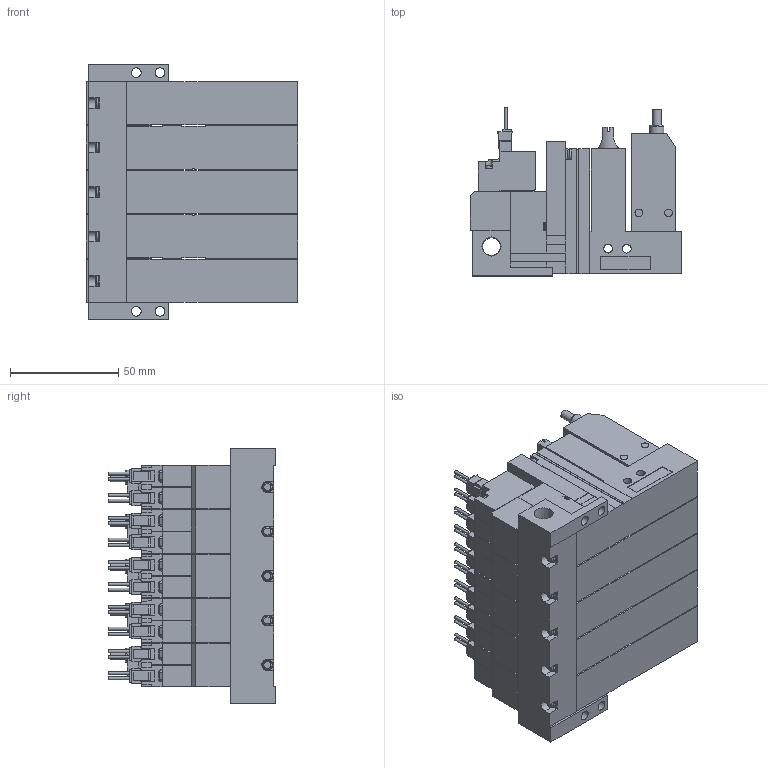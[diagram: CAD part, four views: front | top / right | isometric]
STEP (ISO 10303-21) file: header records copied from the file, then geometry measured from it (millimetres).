
FILE_DESCRIPTION(('STEP AP203'),'1');
FILE_NAME('ABS_ABPLC5BLR505.stp','2025-02-19T01:01:38',(' '),(' '),'Spatial InterOp 3D',' ',' ');
FILE_SCHEMA(('CONFIG_CONTROL_DESIGN'));
Length unit declared in the file: millimetre
Products named in the file (5): BMC22M※※※※ABS_ABPLC5BLR505; Solenoid valve B; Pressure sensor ABSLC; Unit LC; Base MR50R
Assembly tree (16 placements, depth 2):
  BMC22M※※※※ABS_ABPLC5BLR505
    Solenoid valve B  x5
    Pressure sensor ABSLC  x5
    Unit LC  x5
    Base MR50R
Bounding box: 97.6 x 77.45 x 118 mm (x, y, z)
Volume: 508502.2 mm3; surface area: 133107.1 mm2
Topology: 16 solids, 16 shells, 1956 faces, 5249 edges, 3450 vertices
Faces by surface type: plane 1664, cylinder 225, cone 37, torus 30
Full cylindrical faces by diameter (mm): 1.4 x20, 2.5 x5, 3 x20, 3.5 x30, 3.6 x5, 4 x15, 4.134 x5, 4.5 x4, 5.2 x5, 6 x5, 6.5 x5, 6.6 x5, 8.279 x1
Entity records: 14634 total; most frequent: CARTESIAN_POINT 2808, DIRECTION 2323, ORIENTED_EDGE 2292, EDGE_CURVE 1146, LINE 933, VECTOR 933, VERTEX_POINT 799, AXIS2_PLACEMENT_3D 695
